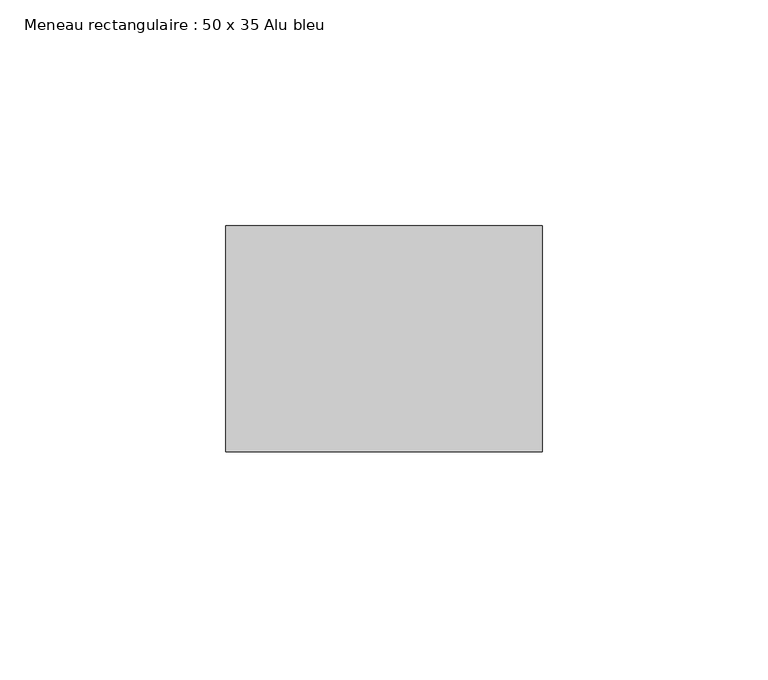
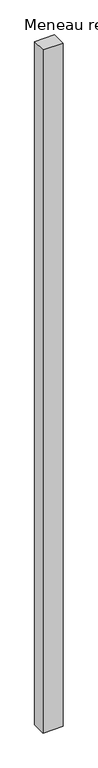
"""IFC4 building model written with IfcOpenShell, lengths in millimetres: member geometry, Meneau rectangulaire : 50 x 35 Alu bleu."""

from ifc_helpers import new_model, si_unit, frame, origin, place, context, project, spatial, polyline, outline, extrude, source, transform, mapped, element, save


def meneau_rectangulaire_50_x_35_alu_bleu_7627f9af(model_context):
    return source(origin(), model_context, "Body", "SweptSolid", [
        extrude(outline(polyline([(0.0, 0.0), (0.0, -50.0), (-70.0, -50.0), (-70.0, 0.0), (0.0, 0.0)])), frame((0.0, 0.0, -2523.2147395), z_axis=(0.0, 0.0, 1.0), x_axis=(1.0, 0.0, 0.0)), (0.0, 0.0, 1.0), 2523.2147395),
    ])


if __name__ == "__main__":
    model = new_model("IFC4")
    model_context = context("Model", 3, world=origin())
    ifc_project = project(units=[si_unit("LENGTHUNIT", "METRE", prefix="MILLI")], contexts=[model_context])
    site = spatial("IfcSite", under=ifc_project)
    building = spatial("IfcBuilding", under=site)
    placement = place(None, origin())
    meneau_rectangulaire_50_x_35_alu_bleu_shape = meneau_rectangulaire_50_x_35_alu_bleu_7627f9af(model_context)
    element("IfcMember", 1, ObjectType="Meneau rectangulaire : 50 x 35 Alu bleu", at=placement, inside=building, context=model_context, shape_type="MappedRepresentation", body=[
        mapped(meneau_rectangulaire_50_x_35_alu_bleu_shape, transform((0.0, 0.0, 0.0), x_axis=(1.0, 0.0, 0.0), y_axis=(0.0, 1.0, 0.0), z_axis=(0.0, 0.0, 1.0))),
    ])
    save(model, "model.ifc")
